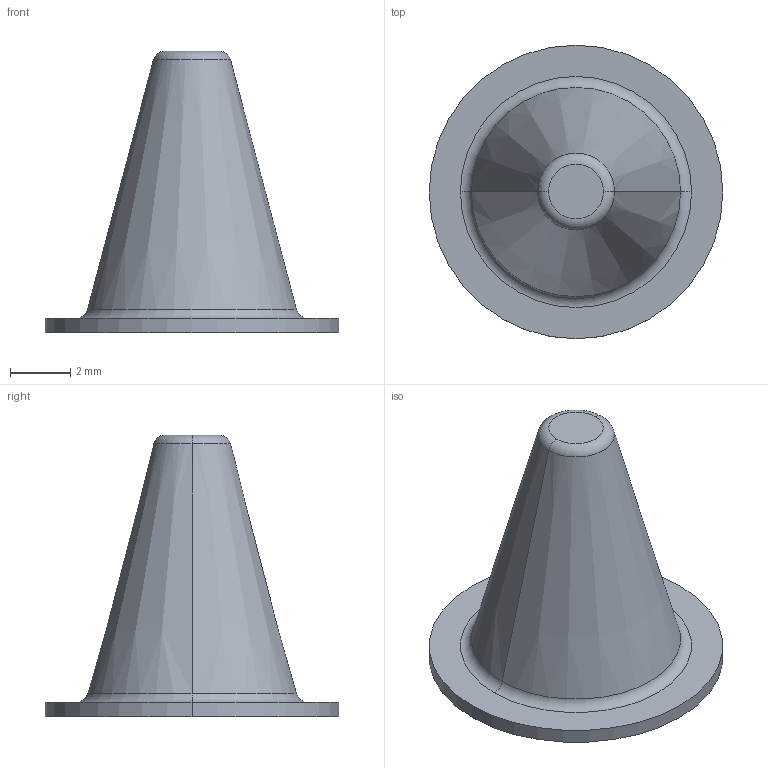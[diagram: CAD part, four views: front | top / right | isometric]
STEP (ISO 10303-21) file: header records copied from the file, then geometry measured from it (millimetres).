
FILE_DESCRIPTION (( 'STEP AP214' ), '1' );
FILE_NAME ('3DFSHF3800000A.STEP', '2021-03-31T18:32:10', ( '' ), ( '' ), 'SwSTEP 2.0', 'SolidWorks 2019', '' );
FILE_SCHEMA (( 'AUTOMOTIVE_DESIGN' ));
Length unit declared in the file: inch
Products named in the file (1): 3DFSHF3800000A
Bounding box: 9.78 x 9.78 x 9.37 mm (x, y, z)
Volume: 207.7 mm3; surface area: 265.6 mm2
Topology: 1 solids, 1 shells, 203 faces, 527 edges, 350 vertices
Faces by surface type: plane 104, bspline 91, torus 4, cone 2, cylinder 2
Entity records: 14626 total; most frequent: CARTESIAN_POINT 7580, ORIENTED_EDGE 1054, DIRECTION 587, EDGE_CURVE 527, VERTEX_POINT 350, LINE 329, VECTOR 329, EDGE_LOOP 227
